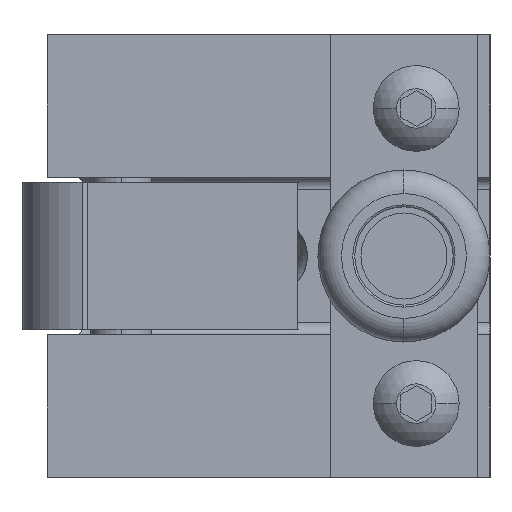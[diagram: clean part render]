
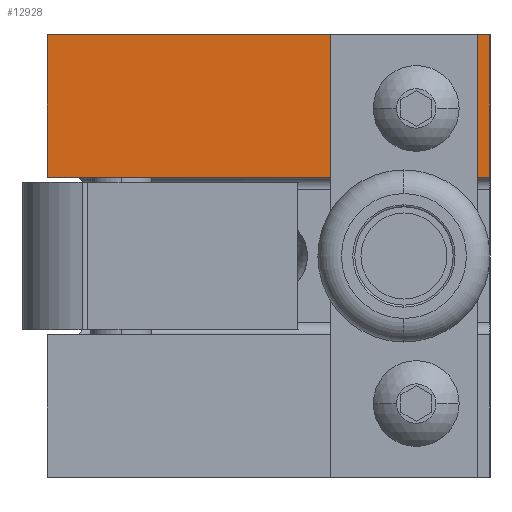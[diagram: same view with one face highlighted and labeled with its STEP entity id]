
A CAD part, left-side view. The second image highlights one B-rep face of the part: STEP entity #12928.
In plain terms, the highlighted planar face has unit normal (-1, 0, 0).
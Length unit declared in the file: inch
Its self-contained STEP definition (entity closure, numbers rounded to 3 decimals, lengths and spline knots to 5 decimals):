
#1797 = FACE_OUTER_BOUND ( 'NONE', #17678, .T. ) ;
#1798 = FACE_BOUND ( 'NONE', #12929, .T. ) ;
#1799 = CARTESIAN_POINT ( 'NONE',  ( -0.97582, -0.77269, 0.81169 ) ) ;
#1829 = DIRECTION ( 'NONE',  ( 0., 0., 1. ) ) ;
#1830 = DIRECTION ( 'NONE',  ( -1., 0., 0. ) ) ;
#1831 = CARTESIAN_POINT ( 'NONE',  ( -0.97582, -0.77269, 0.68669 ) ) ;
#1832 = AXIS2_PLACEMENT_3D ( 'NONE', #1831, #1830, #1829 ) ;
#1833 = DIRECTION ( 'NONE',  ( 0., 0., 1. ) ) ;
#1834 = DIRECTION ( 'NONE',  ( -1., 0., 0. ) ) ;
#1835 = CARTESIAN_POINT ( 'NONE',  ( -0.97582, -1.14769, -1.18831 ) ) ;
#1836 = AXIS2_PLACEMENT_3D ( 'NONE', #1835, #1834, #1833 ) ;
#1837 = CIRCLE ( 'NONE', #1832, 0.125 ) ;
#1838 = PLANE ( 'NONE',  #1836 ) ;
#7021 = DIRECTION ( 'NONE',  ( 0., 0., 1. ) ) ;
#7022 = VECTOR ( 'NONE', #7021, 39.37008 ) ;
#7023 = CARTESIAN_POINT ( 'NONE',  ( -0.97582, 1.10231, -1.18831 ) ) ;
#7024 = LINE ( 'NONE', #7023, #7022 ) ;
#7025 = CARTESIAN_POINT ( 'NONE',  ( -0.97582, 1.10231, 1.06169 ) ) ;
#7316 = CARTESIAN_POINT ( 'NONE',  ( -0.97582, 1.10231, 0.33669 ) ) ;
#7687 = CARTESIAN_POINT ( 'NONE',  ( -0.97582, -1.14769, 0.33669 ) ) ;
#7688 = DIRECTION ( 'NONE',  ( 0., 0., 1. ) ) ;
#7689 = DIRECTION ( 'NONE',  ( -1., 0., 0. ) ) ;
#7690 = CARTESIAN_POINT ( 'NONE',  ( -0.97582, -0.77269, 0.68669 ) ) ;
#7691 = AXIS2_PLACEMENT_3D ( 'NONE', #7690, #7689, #7688 ) ;
#7692 = CIRCLE ( 'NONE', #7691, 0.125 ) ;
#7715 = DIRECTION ( 'NONE',  ( 0., 0., 1. ) ) ;
#7716 = VECTOR ( 'NONE', #7715, 39.37008 ) ;
#7717 = CARTESIAN_POINT ( 'NONE',  ( -0.97582, -1.14769, -1.18831 ) ) ;
#7718 = LINE ( 'NONE', #7717, #7716 ) ;
#7719 = DIRECTION ( 'NONE',  ( 0., -1., 0. ) ) ;
#7720 = VECTOR ( 'NONE', #7719, 39.37008 ) ;
#7721 = CARTESIAN_POINT ( 'NONE',  ( -0.97582, -1.14769, 1.06169 ) ) ;
#7722 = LINE ( 'NONE', #7721, #7720 ) ;
#7765 = DIRECTION ( 'NONE',  ( 0., 1., 0. ) ) ;
#7766 = VECTOR ( 'NONE', #7765, 39.37008 ) ;
#7767 = CARTESIAN_POINT ( 'NONE',  ( -0.97582, -1.14769, 0.33669 ) ) ;
#7768 = LINE ( 'NONE', #7767, #7766 ) ;
#7769 = CARTESIAN_POINT ( 'NONE',  ( -0.97582, -0.77269, 0.56169 ) ) ;
#7770 = CARTESIAN_POINT ( 'NONE',  ( -0.97582, -1.14769, 1.06169 ) ) ;
#12927 = VERTEX_POINT ( 'NONE', #1799 ) ;
#12928 = ADVANCED_FACE ( 'NONE', ( #1798, #1797 ), #1838, .T. ) ;
#12929 = EDGE_LOOP ( 'NONE', ( #12930, #17610 ) ) ;
#12930 = ORIENTED_EDGE ( 'NONE', *, *, #12931, .F. ) ;
#12931 = EDGE_CURVE ( 'NONE', #12927, #17608, #1837, .T. ) ;
#17402 = VERTEX_POINT ( 'NONE', #7025 ) ;
#17403 = EDGE_CURVE ( 'NONE', #17467, #17402, #7024, .T. ) ;
#17467 = VERTEX_POINT ( 'NONE', #7316 ) ;
#17595 = EDGE_CURVE ( 'NONE', #17608, #12927, #7692, .T. ) ;
#17596 = ORIENTED_EDGE ( 'NONE', *, *, #17609, .F. ) ;
#17597 = VERTEX_POINT ( 'NONE', #7687 ) ;
#17602 = ORIENTED_EDGE ( 'NONE', *, *, #17403, .F. ) ;
#17603 = ORIENTED_EDGE ( 'NONE', *, *, #17604, .F. ) ;
#17604 = EDGE_CURVE ( 'NONE', #17402, #17607, #7722, .T. ) ;
#17605 = EDGE_CURVE ( 'NONE', #17597, #17607, #7718, .T. ) ;
#17606 = ORIENTED_EDGE ( 'NONE', *, *, #17605, .T. ) ;
#17607 = VERTEX_POINT ( 'NONE', #7770 ) ;
#17608 = VERTEX_POINT ( 'NONE', #7769 ) ;
#17609 = EDGE_CURVE ( 'NONE', #17597, #17467, #7768, .T. ) ;
#17610 = ORIENTED_EDGE ( 'NONE', *, *, #17595, .F. ) ;
#17678 = EDGE_LOOP ( 'NONE', ( #17596, #17606, #17603, #17602 ) ) ;
